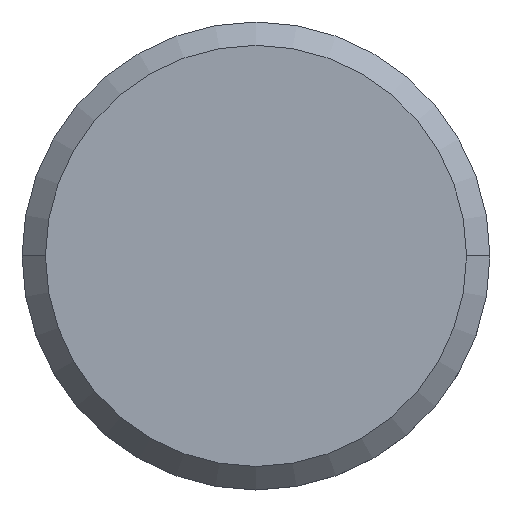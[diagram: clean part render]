
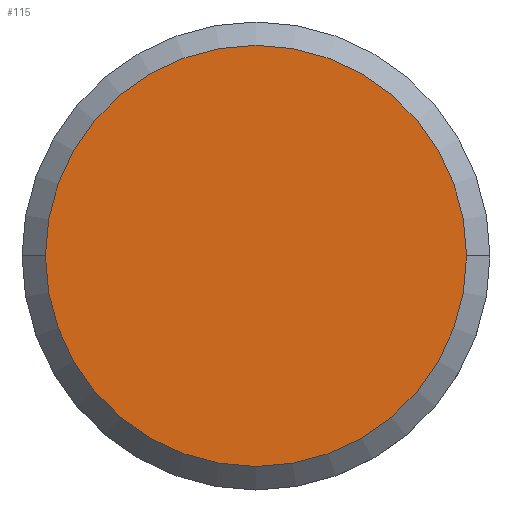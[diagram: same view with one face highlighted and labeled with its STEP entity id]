
A CAD part, top view. The second image highlights one B-rep face of the part: STEP entity #115.
In plain terms, the highlighted planar face has unit normal (0, 0, 1).
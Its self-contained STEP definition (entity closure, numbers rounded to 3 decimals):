
#82 = AXIS2_PLACEMENT_3D ( 'NONE', #766, #270, #770 ) ;
#115 = ADVANCED_FACE ( 'NONE', ( #303 ), #191, .F. ) ;
#122 = DIRECTION ( 'NONE',  ( -1., 0., 0. ) ) ;
#140 = EDGE_CURVE ( 'NONE', #936, #572, #239, .T. ) ;
#168 = CARTESIAN_POINT ( 'NONE',  ( 9., 0., 0. ) ) ;
#170 = CIRCLE ( 'NONE', #338, 9. ) ;
#185 = DIRECTION ( 'NONE',  ( 0., 0., 1. ) ) ;
#188 = CARTESIAN_POINT ( 'NONE',  ( 0., 0., 0. ) ) ;
#191 = PLANE ( 'NONE',  #82 ) ;
#238 = AXIS2_PLACEMENT_3D ( 'NONE', #188, #185, #122 ) ;
#239 = CIRCLE ( 'NONE', #238, 9. ) ;
#270 = DIRECTION ( 'NONE',  ( 0., 0., -1. ) ) ;
#303 = FACE_OUTER_BOUND ( 'NONE', #432, .T. ) ;
#338 = AXIS2_PLACEMENT_3D ( 'NONE', #491, #490, #446 ) ;
#432 = EDGE_LOOP ( 'NONE', ( #520, #522 ) ) ;
#446 = DIRECTION ( 'NONE',  ( -1., 0., 0. ) ) ;
#489 = EDGE_CURVE ( 'NONE', #572, #936, #170, .T. ) ;
#490 = DIRECTION ( 'NONE',  ( 0., 0., 1. ) ) ;
#491 = CARTESIAN_POINT ( 'NONE',  ( 0., 0., 0. ) ) ;
#520 = ORIENTED_EDGE ( 'NONE', *, *, #140, .T. ) ;
#522 = ORIENTED_EDGE ( 'NONE', *, *, #489, .T. ) ;
#572 = VERTEX_POINT ( 'NONE', #168 ) ;
#656 = CARTESIAN_POINT ( 'NONE',  ( -9., 0., 0. ) ) ;
#766 = CARTESIAN_POINT ( 'NONE',  ( 0., 0., 0. ) ) ;
#770 = DIRECTION ( 'NONE',  ( -1., 0., 0. ) ) ;
#936 = VERTEX_POINT ( 'NONE', #656 ) ;
